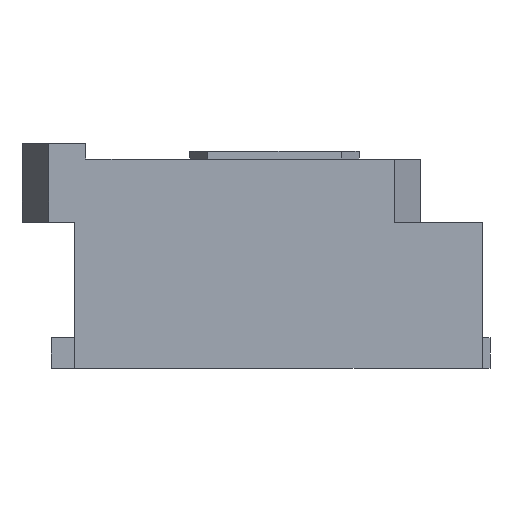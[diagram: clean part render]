
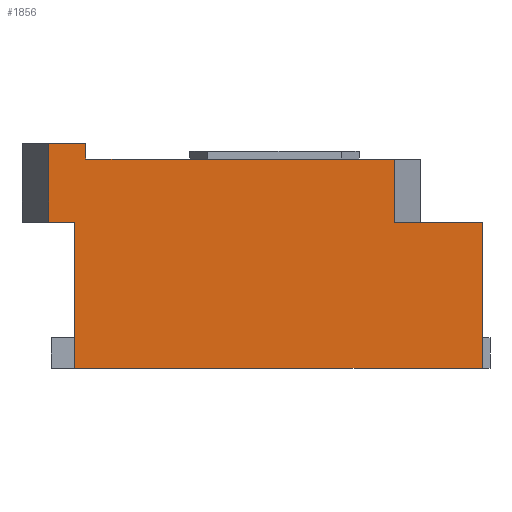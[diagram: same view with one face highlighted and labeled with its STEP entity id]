
A CAD part, left-side view. The second image highlights one B-rep face of the part: STEP entity #1856.
In plain terms, the highlighted planar face has unit normal (-1, 0, 0).
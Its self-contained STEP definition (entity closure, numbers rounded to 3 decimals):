
#71 = LINE ( 'NONE', #1452, #1981 ) ;
#106 = LINE ( 'NONE', #1314, #1158 ) ;
#201 = VERTEX_POINT ( 'NONE', #818 ) ;
#213 = VERTEX_POINT ( 'NONE', #845 ) ;
#221 = DIRECTION ( 'NONE',  ( 0., 0., -1. ) ) ;
#222 = LINE ( 'NONE', #1370, #1075 ) ;
#232 = VERTEX_POINT ( 'NONE', #2075 ) ;
#339 = VERTEX_POINT ( 'NONE', #1195 ) ;
#369 = LINE ( 'NONE', #467, #1819 ) ;
#467 = CARTESIAN_POINT ( 'NONE',  ( -128., -149.5, 0. ) ) ;
#469 = DIRECTION ( 'NONE',  ( 0., 0., -1. ) ) ;
#489 = FACE_OUTER_BOUND ( 'NONE', #1221, .T. ) ;
#511 = DIRECTION ( 'NONE',  ( 0., 0., -1. ) ) ;
#546 = CARTESIAN_POINT ( 'NONE',  ( -128., 132.179, 146. ) ) ;
#569 = VECTOR ( 'NONE', #511, 1000. ) ;
#588 = EDGE_CURVE ( 'NONE', #2506, #232, #3158, .T. ) ;
#591 = EDGE_CURVE ( 'NONE', #698, #213, #1853, .T. ) ;
#606 = VECTOR ( 'NONE', #1999, 1000. ) ;
#607 = VECTOR ( 'NONE', #1181, 1000. ) ;
#634 = LINE ( 'NONE', #2322, #837 ) ;
#698 = VERTEX_POINT ( 'NONE', #2012 ) ;
#812 = CARTESIAN_POINT ( 'NONE',  ( -128., 132.179, 95. ) ) ;
#818 = CARTESIAN_POINT ( 'NONE',  ( -128., 115.5, 0. ) ) ;
#834 = DIRECTION ( 'NONE',  ( 0., 1., 0. ) ) ;
#837 = VECTOR ( 'NONE', #834, 1000. ) ;
#845 = CARTESIAN_POINT ( 'NONE',  ( -128., 107.931, 136. ) ) ;
#925 = CARTESIAN_POINT ( 'NONE',  ( -128., -149.5, 0. ) ) ;
#1075 = VECTOR ( 'NONE', #2825, 1000. ) ;
#1158 = VECTOR ( 'NONE', #2205, 1000. ) ;
#1173 = ORIENTED_EDGE ( 'NONE', *, *, #1880, .T. ) ;
#1181 = DIRECTION ( 'NONE',  ( 0., 1., 0. ) ) ;
#1195 = CARTESIAN_POINT ( 'NONE',  ( -128., 115.5, 95. ) ) ;
#1221 = EDGE_LOOP ( 'NONE', ( #1486, #1519, #1599, #1759, #1173, #1734, #2668, #2885, #2349, #2198 ) ) ;
#1246 = VERTEX_POINT ( 'NONE', #1568 ) ;
#1314 = CARTESIAN_POINT ( 'NONE',  ( -128., -149.5, 146. ) ) ;
#1318 = VERTEX_POINT ( 'NONE', #925 ) ;
#1370 = CARTESIAN_POINT ( 'NONE',  ( -128., -92.179, 146. ) ) ;
#1437 = VECTOR ( 'NONE', #221, 1000. ) ;
#1452 = CARTESIAN_POINT ( 'NONE',  ( -128., 115.5, 0. ) ) ;
#1486 = ORIENTED_EDGE ( 'NONE', *, *, #3119, .T. ) ;
#1519 = ORIENTED_EDGE ( 'NONE', *, *, #591, .F. ) ;
#1539 = CARTESIAN_POINT ( 'NONE',  ( -128., -149.5, 95. ) ) ;
#1568 = CARTESIAN_POINT ( 'NONE',  ( -128., 132.179, 146. ) ) ;
#1574 = EDGE_CURVE ( 'NONE', #232, #2987, #222, .T. ) ;
#1599 = ORIENTED_EDGE ( 'NONE', *, *, #1808, .F. ) ;
#1678 = CARTESIAN_POINT ( 'NONE',  ( -128., 107.931, 187.138 ) ) ;
#1688 = EDGE_CURVE ( 'NONE', #201, #1318, #369, .T. ) ;
#1699 = DIRECTION ( 'NONE',  ( 0., 0., -1. ) ) ;
#1734 = ORIENTED_EDGE ( 'NONE', *, *, #1847, .T. ) ;
#1759 = ORIENTED_EDGE ( 'NONE', *, *, #2414, .T. ) ;
#1808 = EDGE_CURVE ( 'NONE', #1246, #698, #106, .T. ) ;
#1819 = VECTOR ( 'NONE', #3137, 1000. ) ;
#1840 = EDGE_CURVE ( 'NONE', #2506, #1318, #2418, .T. ) ;
#1847 = EDGE_CURVE ( 'NONE', #339, #201, #71, .T. ) ;
#1853 = LINE ( 'NONE', #1678, #1437 ) ;
#1856 = ADVANCED_FACE ( 'NONE', ( #489 ), #1923, .F. ) ;
#1880 = EDGE_CURVE ( 'NONE', #3013, #339, #2533, .T. ) ;
#1923 = PLANE ( 'NONE',  #2566 ) ;
#1981 = VECTOR ( 'NONE', #3156, 1000. ) ;
#1999 = DIRECTION ( 'NONE',  ( 0., -1., 0. ) ) ;
#2012 = CARTESIAN_POINT ( 'NONE',  ( -128., 107.931, 146. ) ) ;
#2075 = CARTESIAN_POINT ( 'NONE',  ( -128., -92.179, 95. ) ) ;
#2198 = ORIENTED_EDGE ( 'NONE', *, *, #1574, .T. ) ;
#2205 = DIRECTION ( 'NONE',  ( 0., -1., 0. ) ) ;
#2241 = VECTOR ( 'NONE', #469, 1000. ) ;
#2259 = CARTESIAN_POINT ( 'NONE',  ( -128., -92.179, 136. ) ) ;
#2322 = CARTESIAN_POINT ( 'NONE',  ( -128., 128.5, 136. ) ) ;
#2349 = ORIENTED_EDGE ( 'NONE', *, *, #588, .T. ) ;
#2400 = CARTESIAN_POINT ( 'NONE',  ( -128., -149.5, 146. ) ) ;
#2414 = EDGE_CURVE ( 'NONE', #1246, #3013, #2921, .T. ) ;
#2418 = LINE ( 'NONE', #2400, #2241 ) ;
#2424 = CARTESIAN_POINT ( 'NONE',  ( -128., -149.5, 146. ) ) ;
#2506 = VERTEX_POINT ( 'NONE', #1539 ) ;
#2533 = LINE ( 'NONE', #2719, #606 ) ;
#2566 = AXIS2_PLACEMENT_3D ( 'NONE', #2424, #2641, #1699 ) ;
#2641 = DIRECTION ( 'NONE',  ( 1., 0., 0. ) ) ;
#2643 = CARTESIAN_POINT ( 'NONE',  ( -128., -149.5, 95. ) ) ;
#2668 = ORIENTED_EDGE ( 'NONE', *, *, #1688, .T. ) ;
#2719 = CARTESIAN_POINT ( 'NONE',  ( -128., 149.5, 95. ) ) ;
#2825 = DIRECTION ( 'NONE',  ( 0., 0., 1. ) ) ;
#2885 = ORIENTED_EDGE ( 'NONE', *, *, #1840, .F. ) ;
#2921 = LINE ( 'NONE', #546, #569 ) ;
#2987 = VERTEX_POINT ( 'NONE', #2259 ) ;
#3013 = VERTEX_POINT ( 'NONE', #812 ) ;
#3119 = EDGE_CURVE ( 'NONE', #2987, #213, #634, .T. ) ;
#3137 = DIRECTION ( 'NONE',  ( 0., -1., 0. ) ) ;
#3156 = DIRECTION ( 'NONE',  ( 0., 0., -1. ) ) ;
#3158 = LINE ( 'NONE', #2643, #607 ) ;
